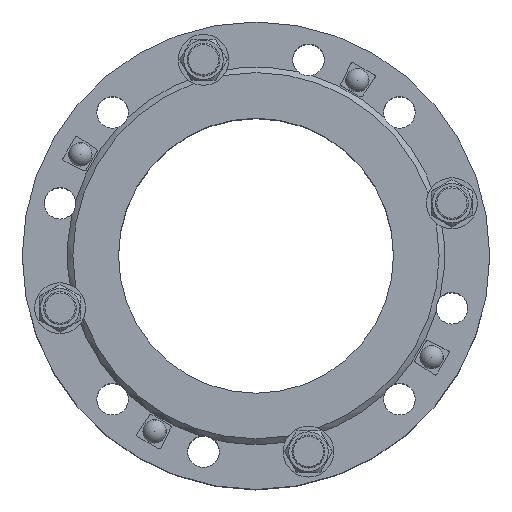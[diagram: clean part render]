
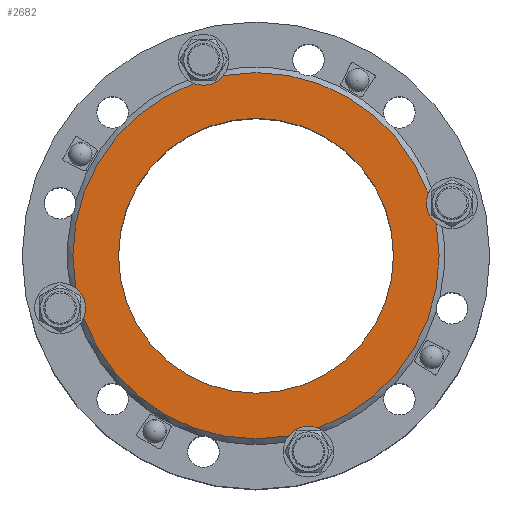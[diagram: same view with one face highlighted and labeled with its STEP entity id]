
A CAD part, top view. The second image highlights one B-rep face of the part: STEP entity #2682.
In plain terms, the highlighted planar face has unit normal (0, 0, 1) as drawn and (0, 0, -1) by its records, which use the part's own axes.
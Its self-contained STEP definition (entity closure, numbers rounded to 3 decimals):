
#2682=ADVANCED_FACE('',(#3995,#3997),#3999,.F.);
#3995=FACE_BOUND('',#3996,.T.);
#3996=EDGE_LOOP('',(#5827));
#3997=FACE_BOUND('',#3998,.T.);
#3998=EDGE_LOOP('',(#5828));
#3999=PLANE('',#4000);
#4000=AXIS2_PLACEMENT_3D('',#4001,#4002,#4003);
#4001=CARTESIAN_POINT('',(0.,0.,0.));
#4002=DIRECTION('',(0.,0.,1.));
#4003=DIRECTION('',(-1.,0.,0.));
#5827=ORIENTED_EDGE('',*,*,#6517,.F.);
#5828=ORIENTED_EDGE('',*,*,#6583,.T.);
#6517=EDGE_CURVE('',#7372,#7372,#7373,.T.);
#6583=EDGE_CURVE('',#7472,#7472,#7473,.T.);
#7372=VERTEX_POINT('',#13743);
#7373=CIRCLE('',#13744,133.2);
#7472=VERTEX_POINT('',#13993);
#7473=CIRCLE('',#13994,100.);
#13743=CARTESIAN_POINT('',(-133.2,0.,0.));
#13744=AXIS2_PLACEMENT_3D('',#13745,#13746,#13747);
#13745=CARTESIAN_POINT('',(0.,0.,0.));
#13746=DIRECTION('',(0.,0.,1.));
#13747=DIRECTION('',(-1.,0.,0.));
#13993=CARTESIAN_POINT('',(-100.,0.,0.));
#13994=AXIS2_PLACEMENT_3D('',#13995,#13996,#13997);
#13995=CARTESIAN_POINT('',(0.,0.,0.));
#13996=DIRECTION('',(0.,0.,1.));
#13997=DIRECTION('',(-1.,0.,0.));
